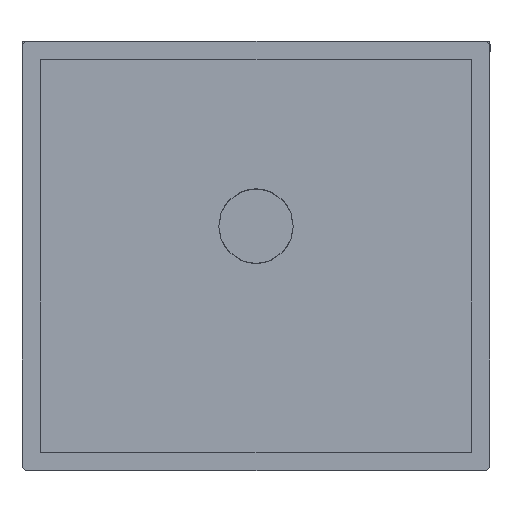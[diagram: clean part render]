
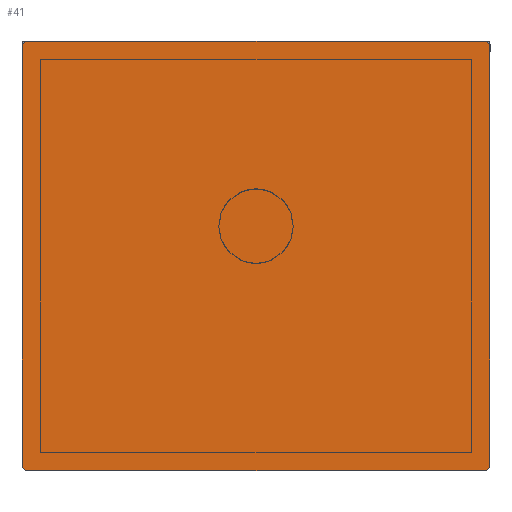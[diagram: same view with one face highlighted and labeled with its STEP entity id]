
A CAD part, front view. The second image highlights one B-rep face of the part: STEP entity #41.
In plain terms, the highlighted planar face has unit normal (0, -1, 0).
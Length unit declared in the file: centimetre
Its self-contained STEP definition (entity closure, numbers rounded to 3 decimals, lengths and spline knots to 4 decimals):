
#41=ADVANCED_FACE('',(#153),#1834,.T.);
#153=FACE_OUTER_BOUND('',#266,.T.);
#266=EDGE_LOOP('',(#456,#457,#458,#459,#460,#461,#462,#463));
#456=ORIENTED_EDGE('',*,*,#1018,.T.);
#457=ORIENTED_EDGE('',*,*,#1004,.F.);
#458=ORIENTED_EDGE('',*,*,#1006,.T.);
#459=ORIENTED_EDGE('',*,*,#984,.F.);
#460=ORIENTED_EDGE('',*,*,#1009,.F.);
#461=ORIENTED_EDGE('',*,*,#1012,.F.);
#462=ORIENTED_EDGE('',*,*,#1014,.F.);
#463=ORIENTED_EDGE('',*,*,#1017,.F.);
#984=EDGE_CURVE('',#1594,#1595,#1354,.T.);
#1004=EDGE_CURVE('',#1611,#1612,#1374,.T.);
#1006=EDGE_CURVE('',#1611,#1595,#1278,.T.);
#1009=EDGE_CURVE('',#1613,#1594,#1280,.T.);
#1012=EDGE_CURVE('',#1614,#1613,#1378,.T.);
#1014=EDGE_CURVE('',#1615,#1614,#1282,.T.);
#1017=EDGE_CURVE('',#1616,#1615,#1381,.T.);
#1018=EDGE_CURVE('',#1616,#1612,#1284,.T.);
#1278=(
BOUNDED_CURVE()
B_SPLINE_CURVE(2,(#2343,#2344,#2345),.UNSPECIFIED.,.F.,.F.)
B_SPLINE_CURVE_WITH_KNOTS((3,3),(-0.3142,0.),.UNSPECIFIED.)
CURVE()
GEOMETRIC_REPRESENTATION_ITEM()
RATIONAL_B_SPLINE_CURVE((1.,0.707,1.))
REPRESENTATION_ITEM('')
);
#1280=(
BOUNDED_CURVE()
B_SPLINE_CURVE(2,(#2351,#2352,#2353),.UNSPECIFIED.,.F.,.F.)
B_SPLINE_CURVE_WITH_KNOTS((3,3),(0.,0.3142),.UNSPECIFIED.)
CURVE()
GEOMETRIC_REPRESENTATION_ITEM()
RATIONAL_B_SPLINE_CURVE((1.,0.707,1.))
REPRESENTATION_ITEM('')
);
#1282=(
BOUNDED_CURVE()
B_SPLINE_CURVE(2,(#2363,#2364,#2365),.UNSPECIFIED.,.F.,.F.)
B_SPLINE_CURVE_WITH_KNOTS((3,3),(0.,0.3142),.UNSPECIFIED.)
CURVE()
GEOMETRIC_REPRESENTATION_ITEM()
RATIONAL_B_SPLINE_CURVE((1.,0.707,1.))
REPRESENTATION_ITEM('')
);
#1284=(
BOUNDED_CURVE()
B_SPLINE_CURVE(2,(#2373,#2374,#2375),.UNSPECIFIED.,.F.,.F.)
B_SPLINE_CURVE_WITH_KNOTS((3,3),(-0.3142,0.),.UNSPECIFIED.)
CURVE()
GEOMETRIC_REPRESENTATION_ITEM()
RATIONAL_B_SPLINE_CURVE((1.,0.707,1.))
REPRESENTATION_ITEM('')
);
#1354=B_SPLINE_CURVE_WITH_KNOTS('',1,(#2299,#2300),.UNSPECIFIED.,.F.,.F.,
(2,2),(0.,24.6999),.UNSPECIFIED.);
#1374=B_SPLINE_CURVE_WITH_KNOTS('',1,(#2339,#2340),.UNSPECIFIED.,.F.,.F.,
(2,2),(0.,22.6409),.UNSPECIFIED.);
#1378=B_SPLINE_CURVE_WITH_KNOTS('',1,(#2359,#2360),.UNSPECIFIED.,.F.,.F.,
(2,2),(-22.6409,0.),.UNSPECIFIED.);
#1381=B_SPLINE_CURVE_WITH_KNOTS('',1,(#2371,#2372),.UNSPECIFIED.,.F.,.F.,
(2,2),(-24.6999,0.),.UNSPECIFIED.);
#1594=VERTEX_POINT('',#2249);
#1595=VERTEX_POINT('',#2250);
#1611=VERTEX_POINT('',#2266);
#1612=VERTEX_POINT('',#2267);
#1613=VERTEX_POINT('',#2268);
#1614=VERTEX_POINT('',#2269);
#1615=VERTEX_POINT('',#2270);
#1616=VERTEX_POINT('',#2271);
#1834=PLANE('',#2007);
#2007=AXIS2_PLACEMENT_3D('',#2237,#2122,$);
#2122=DIRECTION('',(0.,-1.,0.));
#2237=CARTESIAN_POINT('',(40.2416,-912.6559,28.4033));
#2249=CARTESIAN_POINT('',(40.4516,-912.6559,28.3933));
#2250=CARTESIAN_POINT('',(65.1514,-912.6559,28.3933));
#2266=CARTESIAN_POINT('',(65.3514,-912.6559,28.1933));
#2267=CARTESIAN_POINT('',(65.3514,-912.6559,5.5525));
#2268=CARTESIAN_POINT('',(40.2516,-912.6559,28.1933));
#2269=CARTESIAN_POINT('',(40.2516,-912.6559,5.5525));
#2270=CARTESIAN_POINT('',(40.4516,-912.6559,5.3525));
#2271=CARTESIAN_POINT('',(65.1514,-912.6559,5.3525));
#2299=CARTESIAN_POINT('',(40.4516,-912.6559,28.3933));
#2300=CARTESIAN_POINT('',(65.1514,-912.6559,28.3933));
#2339=CARTESIAN_POINT('',(65.3514,-912.6559,28.1933));
#2340=CARTESIAN_POINT('',(65.3514,-912.6559,5.5525));
#2343=CARTESIAN_POINT('',(65.3514,-912.6559,28.1933));
#2344=CARTESIAN_POINT('',(65.3514,-912.6559,28.3933));
#2345=CARTESIAN_POINT('',(65.1514,-912.6559,28.3933));
#2351=CARTESIAN_POINT('',(40.2516,-912.6559,28.1933));
#2352=CARTESIAN_POINT('',(40.2516,-912.6559,28.3933));
#2353=CARTESIAN_POINT('',(40.4516,-912.6559,28.3933));
#2359=CARTESIAN_POINT('',(40.2516,-912.6559,5.5525));
#2360=CARTESIAN_POINT('',(40.2516,-912.6559,28.1933));
#2363=CARTESIAN_POINT('',(40.4516,-912.6559,5.3525));
#2364=CARTESIAN_POINT('',(40.2516,-912.6559,5.3525));
#2365=CARTESIAN_POINT('',(40.2516,-912.6559,5.5525));
#2371=CARTESIAN_POINT('',(65.1514,-912.6559,5.3525));
#2372=CARTESIAN_POINT('',(40.4516,-912.6559,5.3525));
#2373=CARTESIAN_POINT('',(65.1514,-912.6559,5.3525));
#2374=CARTESIAN_POINT('',(65.3514,-912.6559,5.3525));
#2375=CARTESIAN_POINT('',(65.3514,-912.6559,5.5525));
